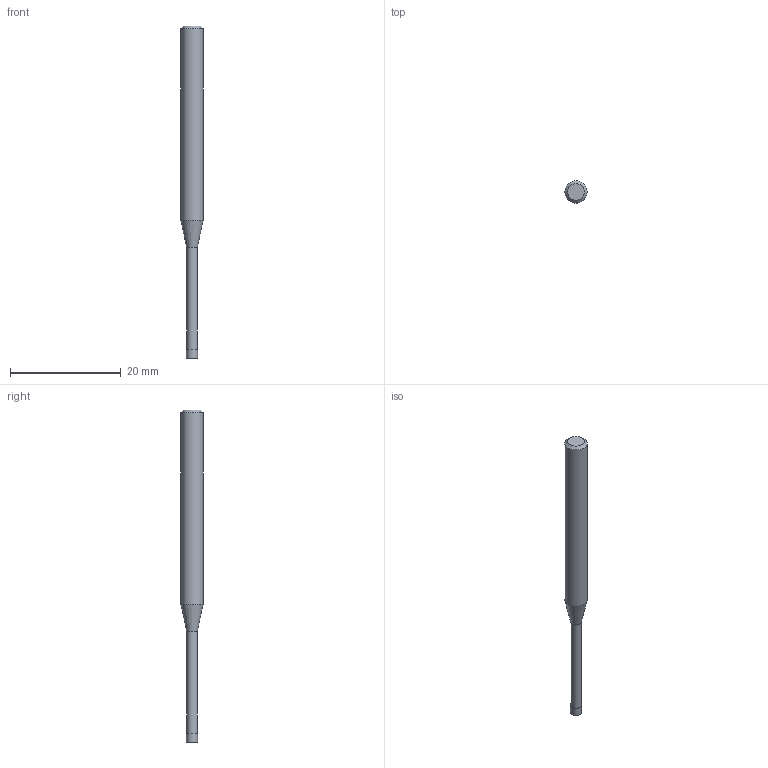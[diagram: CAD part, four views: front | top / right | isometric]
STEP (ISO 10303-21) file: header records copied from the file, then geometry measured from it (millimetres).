
FILE_DESCRIPTION((''),'2;1');
FILE_NAME('C:\Users\nsx150\AppData\Local\Temp\Mastercam 2021\3SYKECWX22\TEMP.step','2021-04-22T09:39:25',(''),(''),'STEP Write','Mastercam 2021 ... CNC Software, Inc.','');
FILE_SCHEMA(('AUTOMOTIVE_DESIGN'));
Length unit declared in the file: millimetre
Products named in the file (1): None
Bounding box: 4 x 4 x 60 mm (x, y, z)
Volume: 534.7 mm3; surface area: 628 mm2
Topology: 2 solids, 2 shells, 9 faces, 12 edges, 7 vertices
Faces by surface type: plane 4, cylinder 3, cone 2
Full cylindrical faces by diameter (mm): 1.94 x1, 2 x1, 4 x1
Entity records: 211 total; most frequent: DIRECTION 36, CARTESIAN_POINT 25, AXIS2_PLACEMENT_3D 18, ORIENTED_EDGE 14, EDGE_LOOP 14, STYLED_ITEM 12, ADVANCED_FACE 9, FACE_BOUND 8
